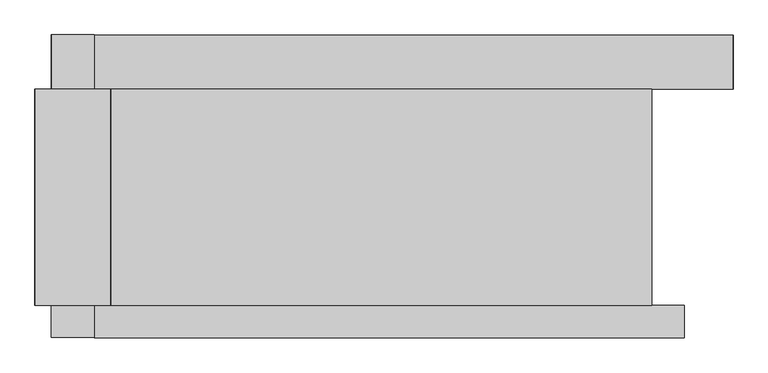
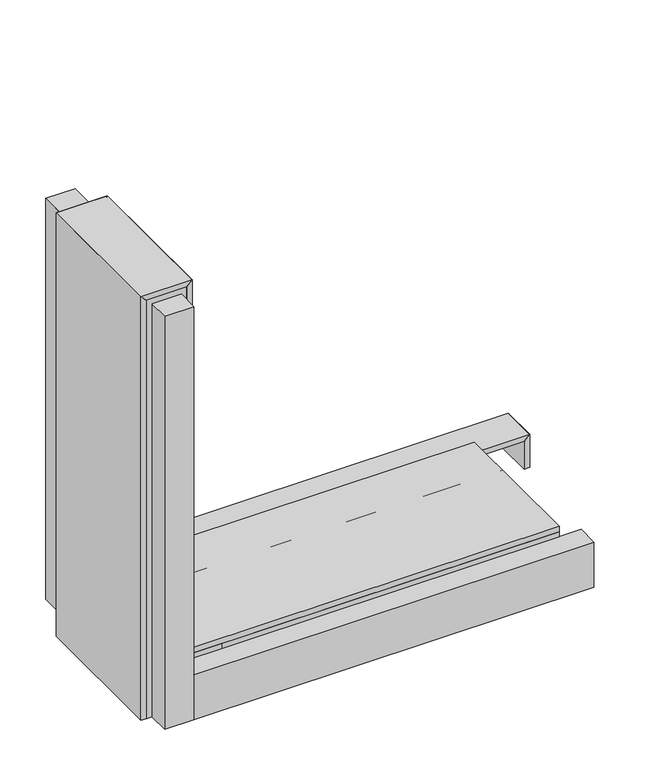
"""IFC4 building model written with IfcOpenShell, lengths in millimetres: proxy geometry, CCN^APOGEE_L3 KNEE WALL-FIXED TOP SOLID."""

from ifc_helpers import new_model, si_unit, frame, origin, place, context, project, spatial, polyline, outline, extrude, faceted_brep, source, transform, mapped, element, save


def generic_models_0db4efbe(model_context):
    return source(origin(), model_context, "Body", "SolidModel", [
        extrude(outline(polyline([(1447.8, 508.0), (1447.8, 0.0), (177.8, 0.0), (177.8, 508.0), (1447.8, 508.0)])), frame((0.0, 0.0, -1365.25), z_axis=(0.0, 0.0, 1.0), x_axis=(1.0, 0.0, 0.0)), (0.0, 0.0, 1.0), 19.05),
        faceted_brep([(0.0, 508.0, 0.0), (19.05, 488.95, -19.05), (19.05, 488.95, -1549.4), (0.0, 508.0, -1549.4), (19.05, 0.0, -1549.4), (0.0, 0.0, -1549.4), (19.05, 0.0, -19.05), (0.0, 0.0, 0.0)], [[[0, 1, 2, 3]], [[3, 2, 4, 5]], [[2, 1, 6, 4]], [[1, 0, 7, 6]], [[0, 3, 5, 7]], [[4, 6, 7, 5]]]),
        faceted_brep([(177.8, 508.0, -1549.4), (158.75, 488.95, -1549.4), (158.75, 488.95, -19.05), (177.8, 508.0, 0.0), (158.75, 0.0, -19.05), (177.8, 0.0, 0.0), (158.75, 0.0, -1549.4), (177.8, 0.0, -1549.4)], [[[0, 1, 2, 3]], [[3, 2, 4, 5]], [[2, 1, 6, 4]], [[1, 0, 7, 6]], [[0, 3, 5, 7]], [[6, 7, 5, 4]]]),
        faceted_brep([(177.8, 508.0, -1549.4), (88.9, 419.1, -1549.4), (0.0, 508.0, -1549.4), (177.8, 508.0, 0.0), (88.9, 419.1, -88.9), (0.0, 508.0, 0.0)], [[[0, 1, 2]], [[1, 0, 3, 4]], [[1, 4, 5, 2]], [[4, 3, 5]], [[3, 0, 2, 5]]]),
        faceted_brep([(1447.8, 0.0, -1365.25), (281.78125, 0.0, -1365.25), (281.78125, 0.0, -1549.4), (1447.8, 0.0, -1549.4), (281.78125, 508.0, -1549.4), (1447.8, 508.0, -1549.4), (1447.8, 508.0, -1365.25), (281.78125, 508.0, -1365.25), (281.78125, 504.825, -1365.25), (1445.41875, 504.825, -1365.25), (1445.41875, 338.93125, -1365.25), (281.78125, 338.93125, -1365.25), (281.78125, 338.93125, -1346.2), (281.78125, 504.825, -1346.2), (1445.41875, 504.825, -1346.2), (1445.41875, 338.93125, -1346.2)], [[[0, 1, 2, 3]], [[3, 2, 4, 5]], [[6, 7, 8, 9, 10, 11, 1, 0]], [[11, 12, 13, 8, 7, 4, 2, 1]], [[9, 8, 13, 14]], [[10, 9, 14, 15]], [[11, 10, 15, 12]], [[12, 15, 14, 13]], [[7, 6, 5, 4]], [[5, 6, 0, 3]]]),
        extrude(outline(polyline([(158.75, 0.0), (19.05, 0.0), (19.05, 19.05), (158.75, 19.05), (158.75, 0.0)])), frame((0.0, 0.0, -1549.4), z_axis=(0.0, 0.0, 1.0), x_axis=(1.0, 0.0, 0.0)), (0.0, 0.0, 1.0), 1530.35),
        extrude(outline(polyline([(139.7, 0.0), (139.7, -76.2), (38.1, -76.2), (38.1, 0.0), (139.7, 0.0)])), frame((0.0, 0.0, -1549.4), z_axis=(0.0, 0.0, 1.0), x_axis=(1.0, 0.0, 0.0)), (0.0, 0.0, 1.0), 1511.3),
        extrude(outline(polyline([(-1504.95, 1619.25), (-1504.95, 1638.3), (-1384.3, 1638.3), (-1403.35, 1619.25), (-1504.95, 1619.25)])), frame((0.0, 508.0, 0.0), z_axis=(0.0, 1.0, 0.0), x_axis=(0.0, 0.0, 1.0)), (0.0, 0.0, 1.0), 127.0),
        extrude(outline(polyline([(177.8, 0.0), (177.8, 19.05), (1428.75, 19.05), (1428.75, 0.0), (177.8, 0.0)])), frame((0.0, 0.0, -1549.4), z_axis=(0.0, 0.0, 1.0), x_axis=(1.0, 0.0, 0.0)), (0.0, 0.0, 1.0), 184.15),
        extrude(outline(polyline([(-38.1, 38.1), (-1504.95, 38.1), (-1504.95, 57.15), (-57.15, 57.15), (-38.1, 38.1)])), frame((0.0, 508.0, 0.0), z_axis=(0.0, 1.0, 0.0), x_axis=(0.0, 0.0, 1.0)), (0.0, 0.0, 1.0), 127.0),
        extrude(outline(polyline([(139.7, 0.0), (1524.0, 0.0), (1524.0, -76.2), (139.7, -76.2), (139.7, 0.0)])), frame((0.0, 0.0, -1549.4), z_axis=(0.0, 0.0, 1.0), x_axis=(1.0, 0.0, 0.0)), (0.0, 0.0, 1.0), 165.1),
        extrude(outline(polyline([(-1403.35, 1619.25), (-1384.3, 1638.3), (-1384.3, 57.15), (-1403.35, 57.15), (-1403.35, 1619.25)])), frame((0.0, 508.0, 0.0), z_axis=(0.0, 1.0, 0.0), x_axis=(0.0, 0.0, 1.0)), (0.0, 0.0, 1.0), 127.0),
        extrude(outline(polyline([(-57.15, 139.7), (-38.1, 139.7), (-38.1, 38.1), (-57.15, 57.15), (-57.15, 139.7)])), frame((0.0, 508.0, 0.0), z_axis=(0.0, 1.0, 0.0), x_axis=(0.0, 0.0, 1.0)), (0.0, 0.0, 1.0), 127.0),
        faceted_brep([(0.0, 0.0, 0.0), (88.9, 0.0, -88.9), (177.8, 0.0, 0.0), (0.0, 508.0, 0.0), (88.9, 419.1, -88.9), (177.8, 508.0, 0.0)], [[[0, 1, 2]], [[1, 0, 3, 4]], [[1, 4, 5, 2]], [[4, 3, 5]], [[0, 2, 5, 3]]]),
        extrude(outline(polyline([(177.8, 488.95), (177.8, 508.0), (1428.75, 508.0), (1428.75, 488.95), (177.8, 488.95)])), frame((0.0, 0.0, -1549.4), z_axis=(0.0, 0.0, 1.0), x_axis=(1.0, 0.0, 0.0)), (0.0, 0.0, 1.0), 184.15),
    ])


if __name__ == "__main__":
    model = new_model("IFC4")
    model_context = context("Model", 3, world=origin())
    ifc_project = project(units=[si_unit("LENGTHUNIT", "METRE", prefix="MILLI")], contexts=[model_context])
    site = spatial("IfcSite", under=ifc_project)
    building = spatial("IfcBuilding", under=site)
    placement = place(None, origin())
    generic_models_shape = generic_models_0db4efbe(model_context)
    element("IfcBuildingElementProxy", 1, Name="CCN^APOGEE_L3 KNEE WALL-FIXED TOP SOLID", ObjectType="CCN^APOGEE_L3 KNEE WALL-FIXED TOP SOLID", at=placement, inside=building, context=model_context, shape_type="MappedRepresentation", body=[
        mapped(generic_models_shape, transform((0.0, 0.0, 0.0), x_axis=(1.0, 0.0, 0.0), y_axis=(0.0, 1.0, 0.0), z_axis=(0.0, 0.0, 1.0))),
    ])
    save(model, "model.ifc")
